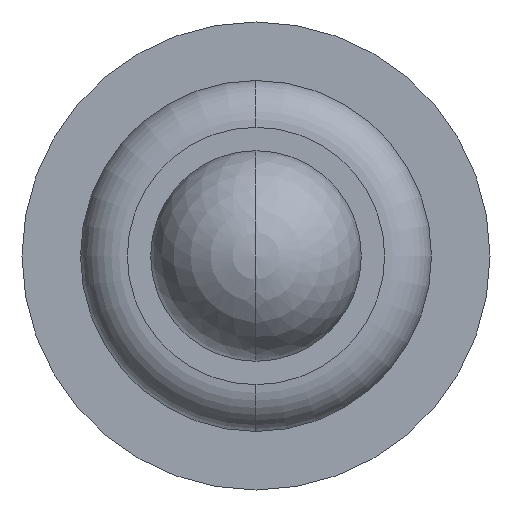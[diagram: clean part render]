
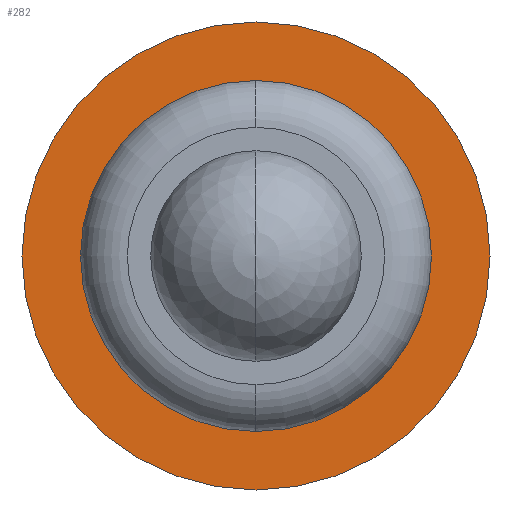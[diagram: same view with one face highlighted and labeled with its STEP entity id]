
A CAD part, left-side view. The second image highlights one B-rep face of the part: STEP entity #282.
In plain terms, the highlighted planar face has unit normal (-1, 0, 0).
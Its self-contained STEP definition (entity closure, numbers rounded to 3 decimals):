
#47=CARTESIAN_POINT('',(-2.495,0.,0.));
#48=DIRECTION('',(-1.,0.,0.));
#49=DIRECTION('',(0.,0.,-1.));
#50=AXIS2_PLACEMENT_3D('',#47,#48,#49);
#52=CARTESIAN_POINT('',(-2.495,0.,0.));
#53=DIRECTION('',(1.,0.,0.));
#54=DIRECTION('',(0.,0.,-1.));
#55=AXIS2_PLACEMENT_3D('',#52,#53,#54);
#57=CARTESIAN_POINT('',(-2.495,0.,0.));
#58=DIRECTION('',(1.,0.,0.));
#59=DIRECTION('',(0.,0.,-1.));
#60=AXIS2_PLACEMENT_3D('',#57,#58,#59);
#70=CARTESIAN_POINT('',(-2.495,0.,0.));
#71=DIRECTION('',(-1.,0.,0.));
#72=DIRECTION('',(0.,0.,-1.));
#73=AXIS2_PLACEMENT_3D('',#70,#71,#72);
#158=CARTESIAN_POINT('',(-2.495,0.,-1.));
#160=VERTEX_POINT('',#158);
#161=CARTESIAN_POINT('',(-2.495,0.,-0.75));
#163=VERTEX_POINT('',#161);
#180=CARTESIAN_POINT('',(-2.495,0.,1.));
#182=VERTEX_POINT('',#180);
#183=CARTESIAN_POINT('',(-2.495,0.,0.75));
#185=VERTEX_POINT('',#183);
#267=CARTESIAN_POINT('',(-2.495,0.,0.));
#268=DIRECTION('',(1.,0.,0.));
#269=DIRECTION('',(0.,0.,1.));
#270=AXIS2_PLACEMENT_3D('',#267,#268,#269);
#271=PLANE('',#270);
#272=ORIENTED_EDGE('',*,*,#260,.F.);
#273=ORIENTED_EDGE('',*,*,#249,.T.);
#274=EDGE_LOOP('',(#272,#273));
#275=FACE_OUTER_BOUND('',#274,.F.);
#277=ORIENTED_EDGE('',*,*,#276,.F.);
#279=ORIENTED_EDGE('',*,*,#278,.T.);
#280=EDGE_LOOP('',(#277,#279));
#281=FACE_BOUND('',#280,.F.);
#282=ADVANCED_FACE('',(#275,#281),#271,.F.);
#51=CIRCLE('',#50,1.);
#56=CIRCLE('',#55,1.);
#61=CIRCLE('',#60,0.75);
#74=CIRCLE('',#73,0.75);
#249=EDGE_CURVE('',#160,#182,#56,.T.);
#260=EDGE_CURVE('',#160,#182,#51,.T.);
#276=EDGE_CURVE('',#163,#185,#61,.T.);
#278=EDGE_CURVE('',#163,#185,#74,.T.);
